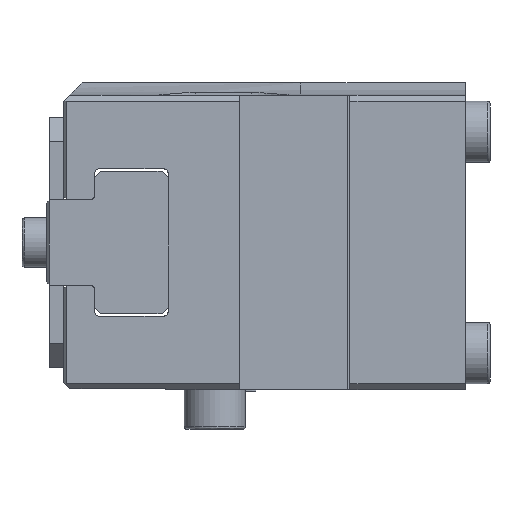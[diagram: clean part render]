
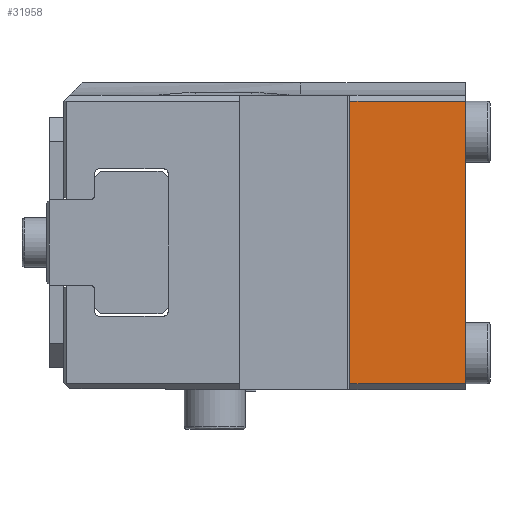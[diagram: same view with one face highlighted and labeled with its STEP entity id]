
A CAD part, left-side view. The second image highlights one B-rep face of the part: STEP entity #31958.
In plain terms, the highlighted planar face has unit normal (-1, 0, 0).
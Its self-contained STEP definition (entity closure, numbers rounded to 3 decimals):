
#453 = CARTESIAN_POINT ( 'NONE',  ( -19., 13.4, 11.5 ) ) ;
#2405 = LINE ( 'NONE', #38172, #44240 ) ;
#3598 = ORIENTED_EDGE ( 'NONE', *, *, #24197, .T. ) ;
#5191 = CARTESIAN_POINT ( 'NONE',  ( -19., 9.4, 11.5 ) ) ;
#5506 = PLANE ( 'NONE',  #47747 ) ;
#6355 = VERTEX_POINT ( 'NONE', #26495 ) ;
#6927 = VECTOR ( 'NONE', #29447, 1000. ) ;
#8188 = EDGE_CURVE ( 'NONE', #16089, #6355, #2405, .T. ) ;
#9554 = DIRECTION ( 'NONE',  ( 0., 0., -1. ) ) ;
#9966 = DIRECTION ( 'NONE',  ( 0., 1., 0. ) ) ;
#10401 = EDGE_LOOP ( 'NONE', ( #14095, #41529, #3598, #19541 ) ) ;
#12553 = CARTESIAN_POINT ( 'NONE',  ( -19., 0., 22. ) ) ;
#14095 = ORIENTED_EDGE ( 'NONE', *, *, #43502, .F. ) ;
#16089 = VERTEX_POINT ( 'NONE', #19176 ) ;
#17564 = CARTESIAN_POINT ( 'NONE',  ( -19., 13.4, 11.5 ) ) ;
#19176 = CARTESIAN_POINT ( 'NONE',  ( -19., 0., -11.5 ) ) ;
#19541 = ORIENTED_EDGE ( 'NONE', *, *, #43457, .F. ) ;
#20226 = FACE_OUTER_BOUND ( 'NONE', #10401, .T. ) ;
#22006 = VERTEX_POINT ( 'NONE', #30258 ) ;
#23272 = CARTESIAN_POINT ( 'NONE',  ( -19., 0., 11.5 ) ) ;
#24197 = EDGE_CURVE ( 'NONE', #16089, #44823, #50768, .T. ) ;
#26495 = CARTESIAN_POINT ( 'NONE',  ( -19., 9.4, -11.5 ) ) ;
#27234 = LINE ( 'NONE', #5191, #6927 ) ;
#29447 = DIRECTION ( 'NONE',  ( 0., 0., 1. ) ) ;
#29715 = VECTOR ( 'NONE', #44920, 1000. ) ;
#30258 = CARTESIAN_POINT ( 'NONE',  ( -19., 9.4, 11.5 ) ) ;
#31958 = ADVANCED_FACE ( 'NONE', ( #20226 ), #5506, .F. ) ;
#33855 = DIRECTION ( 'NONE',  ( 1., 0., 0. ) ) ;
#38172 = CARTESIAN_POINT ( 'NONE',  ( -19., 13.4, -11.5 ) ) ;
#39297 = LINE ( 'NONE', #453, #29715 ) ;
#41529 = ORIENTED_EDGE ( 'NONE', *, *, #8188, .F. ) ;
#43457 = EDGE_CURVE ( 'NONE', #22006, #44823, #39297, .T. ) ;
#43502 = EDGE_CURVE ( 'NONE', #6355, #22006, #27234, .T. ) ;
#44240 = VECTOR ( 'NONE', #9966, 1000. ) ;
#44823 = VERTEX_POINT ( 'NONE', #23272 ) ;
#44920 = DIRECTION ( 'NONE',  ( 0., -1., 0. ) ) ;
#44976 = DIRECTION ( 'NONE',  ( 0., 0., 1. ) ) ;
#47747 = AXIS2_PLACEMENT_3D ( 'NONE', #17564, #33855, #9554 ) ;
#48214 = VECTOR ( 'NONE', #44976, 1000. ) ;
#50768 = LINE ( 'NONE', #12553, #48214 ) ;
